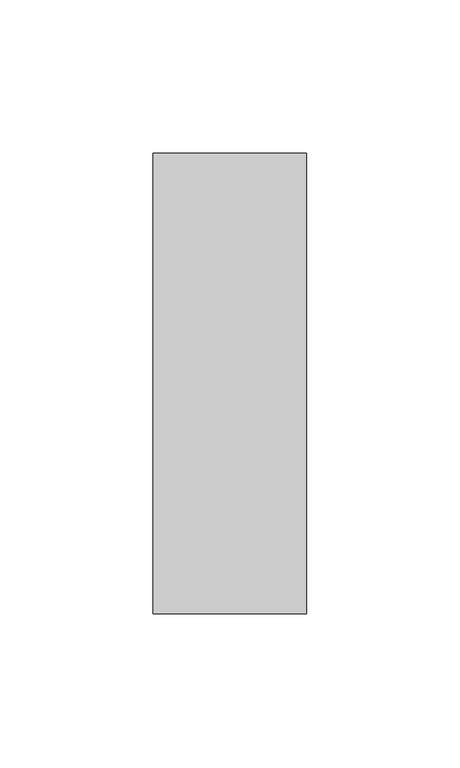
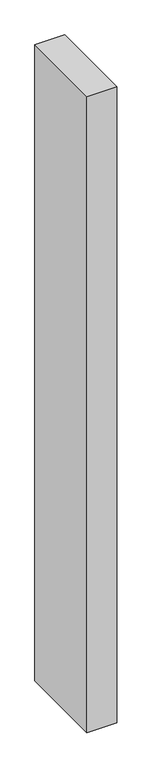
"""IFC4 building model written with IfcOpenShell, lengths in millimetres: member geometry, Прямоугольный импост : 50 x 150 мм."""

from ifc_helpers import new_model, si_unit, frame, origin, place, context, project, spatial, polyline, outline, extrude, source, transform, mapped, element, save


def member_6490fd49(model_context):
    return source(origin(), model_context, "Body", "SweptSolid", [
        extrude(outline(polyline([(25.0, 75.0), (25.0, -75.0), (-25.0, -75.0), (-25.0, 75.0), (25.0, 75.0)])), frame((0.0, 0.0, -1120.7546569), z_axis=(0.0, 0.0, 1.0), x_axis=(1.0, 0.0, 0.0)), (0.0, 0.0, 1.0), 1120.7546569),
    ])


if __name__ == "__main__":
    model = new_model("IFC4")
    model_context = context("Model", 3, world=origin())
    ifc_project = project(units=[si_unit("LENGTHUNIT", "METRE", prefix="MILLI")], contexts=[model_context])
    site = spatial("IfcSite", under=ifc_project)
    building = spatial("IfcBuilding", under=site)
    placement = place(None, origin())
    member_shape = member_6490fd49(model_context)
    element("IfcMember", 1, ObjectType="Прямоугольный импост : 50 x 150 мм", at=placement, inside=building, context=model_context, shape_type="MappedRepresentation", body=[
        mapped(member_shape, transform((0.0, 0.0, 0.0), x_axis=(1.0, 0.0, 0.0), y_axis=(0.0, 1.0, 0.0), z_axis=(0.0, 0.0, 1.0))),
    ])
    save(model, "model.ifc")
